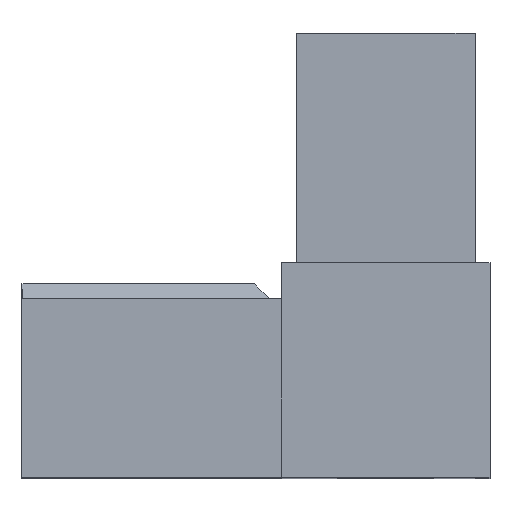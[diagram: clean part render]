
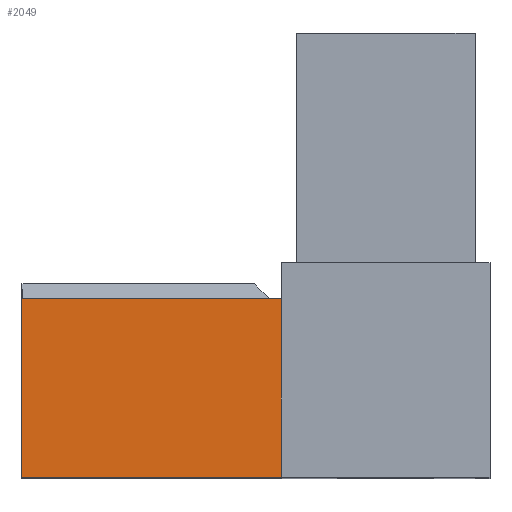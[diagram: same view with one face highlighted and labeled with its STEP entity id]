
A CAD part, top view. The second image highlights one B-rep face of the part: STEP entity #2049.
In plain terms, the highlighted planar face has unit normal (0, 0, 1).
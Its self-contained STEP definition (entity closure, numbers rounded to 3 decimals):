
#21 = CARTESIAN_POINT ( 'NONE',  ( -3., 2., 9.7 ) ) ;
#26 = PLANE ( 'NONE',  #3768 ) ;
#31 = DIRECTION ( 'NONE',  ( 0., 0., 1. ) ) ;
#32 = DIRECTION ( 'NONE',  ( 0., -1., 0. ) ) ;
#352 = CARTESIAN_POINT ( 'NONE',  ( -12.2, -6.9, 9.7 ) ) ;
#358 = DIRECTION ( 'NONE',  ( 1., 0., 0. ) ) ;
#441 = CARTESIAN_POINT ( 'NONE',  ( -3., -12.9, 9.7 ) ) ;
#442 = DIRECTION ( 'NONE',  ( 1., 0., 0. ) ) ;
#444 = CARTESIAN_POINT ( 'NONE',  ( -12.2, -12.9, 9.7 ) ) ;
#445 = DIRECTION ( 'NONE',  ( 0., 1., 0. ) ) ;
#452 = CARTESIAN_POINT ( 'NONE',  ( -3.5, -5.7, 9.7 ) ) ;
#453 = DIRECTION ( 'NONE',  ( 0., -1., 0. ) ) ;
#1057 = ORIENTED_EDGE ( 'NONE', *, *, #2244, .T. ) ;
#1058 = ORIENTED_EDGE ( 'NONE', *, *, #2246, .F. ) ;
#1059 = ORIENTED_EDGE ( 'NONE', *, *, #2204, .F. ) ;
#1060 = ORIENTED_EDGE ( 'NONE', *, *, #2250, .F. ) ;
#1175 = VERTEX_POINT ( 'NONE', #2545 ) ;
#1176 = VERTEX_POINT ( 'NONE', #2546 ) ;
#1407 = VERTEX_POINT ( 'NONE', #2610 ) ;
#1408 = VERTEX_POINT ( 'NONE', #2611 ) ;
#1864 = EDGE_LOOP ( 'NONE', ( #1060, #1059, #1058, #1057 ) ) ;
#2049 = ADVANCED_FACE ( 'NONE', ( #3187 ), #26, .T. ) ;
#2204 = EDGE_CURVE ( 'NONE', #1407, #1408, #3435, .T. ) ;
#2244 = EDGE_CURVE ( 'NONE', #1176, #1175, #3560, .T. ) ;
#2246 = EDGE_CURVE ( 'NONE', #1176, #1407, #3564, .T. ) ;
#2250 = EDGE_CURVE ( 'NONE', #1408, #1175, #3572, .T. ) ;
#2545 = CARTESIAN_POINT ( 'NONE',  ( -3.5, -12.9, 9.7 ) ) ;
#2546 = CARTESIAN_POINT ( 'NONE',  ( -12.2, -12.9, 9.7 ) ) ;
#2610 = CARTESIAN_POINT ( 'NONE',  ( -12.2, -6.9, 9.7 ) ) ;
#2611 = CARTESIAN_POINT ( 'NONE',  ( -3.5, -6.9, 9.7 ) ) ;
#3187 = FACE_OUTER_BOUND ( 'NONE', #1864, .T. ) ;
#3435 = LINE ( 'NONE', #352, #3484 ) ;
#3484 = VECTOR ( 'NONE', #358, 1000. ) ;
#3560 = LINE ( 'NONE', #441, #3561 ) ;
#3561 = VECTOR ( 'NONE', #442, 1000. ) ;
#3564 = LINE ( 'NONE', #444, #3565 ) ;
#3565 = VECTOR ( 'NONE', #445, 1000. ) ;
#3572 = LINE ( 'NONE', #452, #3573 ) ;
#3573 = VECTOR ( 'NONE', #453, 1000. ) ;
#3768 = AXIS2_PLACEMENT_3D ( 'NONE', #21, #31, #32 ) ;
